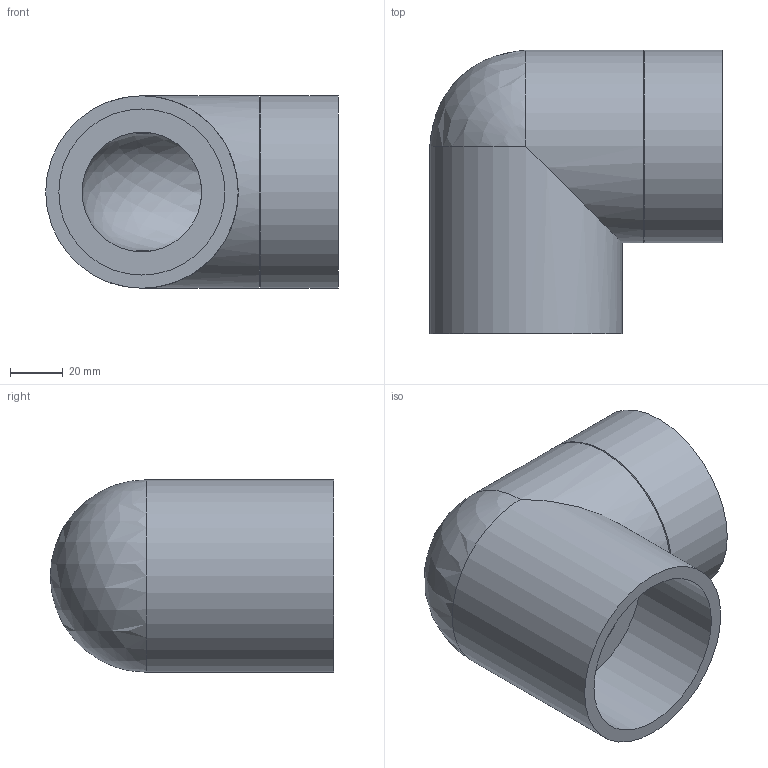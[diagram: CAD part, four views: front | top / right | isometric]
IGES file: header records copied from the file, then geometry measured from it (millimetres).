
Global section: file name: 057502063020.ipt; native system: Autodesk Inventor 2015; preprocessor: unknown; author: KIM; date: 20171207.165904; units: millimetre
Bounding box: 111 x 107.5 x 73 mm (x, y, z)
Volume: 299148 mm3; surface area: 59531 mm2
Topology: 1 solids, 1 shells, 15 faces, 32 edges, 19 vertices
Faces by surface type: revolution 5, plane 4, cylinder 3, cone 2, sphere 1
Full cylindrical faces by diameter (mm): 73 x3
